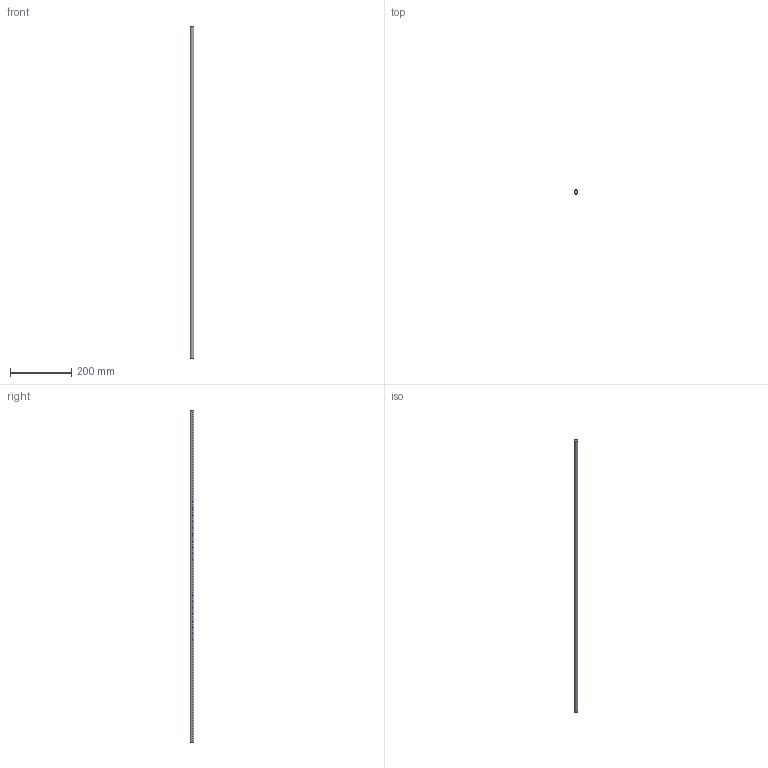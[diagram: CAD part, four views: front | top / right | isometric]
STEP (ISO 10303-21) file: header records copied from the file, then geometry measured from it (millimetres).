
FILE_DESCRIPTION (( 'STEP AP214' ), '1' );
FILE_NAME ('Innenschub H182 - S18_S19 - 1200.step', '2010-09-07T14:56:05', ( 'grass' ), ( '' ), 'SwSTEP 2.0', 'SolidWorks 2010', '' );
FILE_SCHEMA (( 'AUTOMOTIVE_DESIGN' ));
Length unit declared in the file: millimetre
Products named in the file (1): Innenschub H182 - S18_S19 - 1200
Bounding box: 12 x 12 x 1083 mm (x, y, z)
Volume: 122484.4 mm3; surface area: 41054.3 mm2
Topology: 1 solids, 1 shells, 4 faces, 6 edges, 4 vertices
Faces by surface type: cylinder 2, plane 2
Entity records: 128 total; most frequent: DIRECTION 20, CARTESIAN_POINT 15, ORIENTED_EDGE 12, AXIS2_PLACEMENT_3D 9, EDGE_CURVE 6, ADVANCED_FACE 4, VERTEX_POINT 4, FACE_OUTER_BOUND 4
